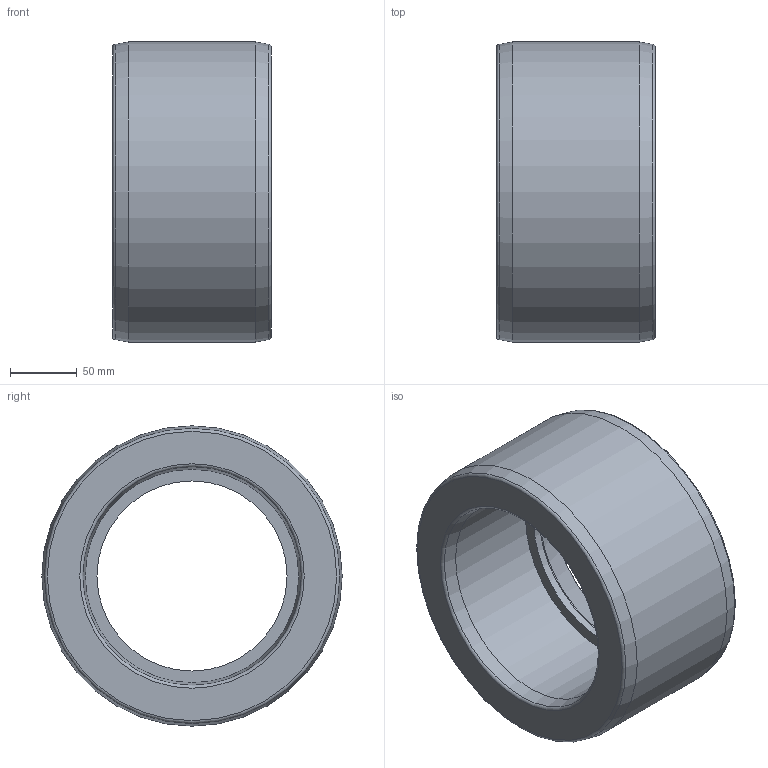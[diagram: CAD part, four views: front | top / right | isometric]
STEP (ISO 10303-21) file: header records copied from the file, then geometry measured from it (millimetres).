
FILE_DESCRIPTION(/* description */ ('PLASSON BUSHING-CEMENT PVC 225-160'),/* implementation_level */ '2;1');
FILE_NAME(/* name */ 'C:\Dropbox\KIMPROJECTS-Inventor\99-16-3568-Processing\PVC Catalog 2017\050900\050900225160.ipt.stp',/* time_stamp */ '2017-12-07T15:59:46+02:00',/* author */ ('KIM'),/* organization */ (''),/* preprocessor_version */ 'ST-DEVELOPER v15.6',/* originating_system */ 'Autodesk Inventor 2015',/* authorisation */ '');
FILE_SCHEMA (('AUTOMOTIVE_DESIGN { 1 0 10303 214 3 1 1 }'));
Length unit declared in the file: millimetre
Products named in the file (1): 050900225160
Bounding box: 119 x 225 x 225 mm (x, y, z)
Volume: 2344681.6 mm3; surface area: 179984.3 mm2
Topology: 1 solids, 1 shells, 15 faces, 27 edges, 15 vertices
Faces by surface type: torus 5, cone 4, cylinder 3, plane 3
Full cylindrical faces by diameter (mm): 142.4 x1, 160 x1, 225 x1
Entity records: 332 total; most frequent: DIRECTION 62, CARTESIAN_POINT 46, AXIS2_PLACEMENT_3D 31, EDGE_LOOP 30, ORIENTED_EDGE 30, FACE_BOUND 15, FACE_OUTER_BOUND 15, CIRCLE 15
